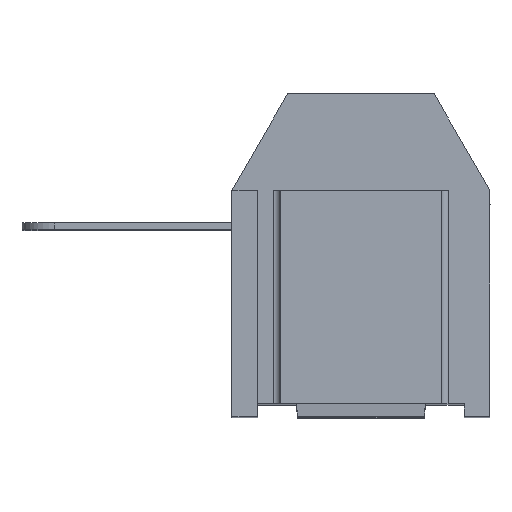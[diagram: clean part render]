
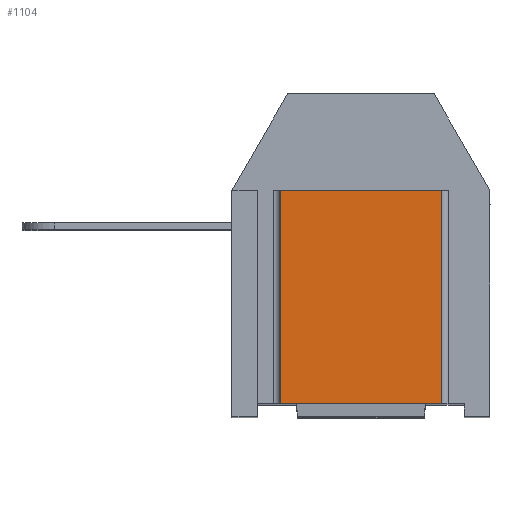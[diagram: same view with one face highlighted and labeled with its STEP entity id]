
A CAD part, top view. The second image highlights one B-rep face of the part: STEP entity #1104.
In plain terms, the highlighted planar face has unit normal (0, 0, 1).
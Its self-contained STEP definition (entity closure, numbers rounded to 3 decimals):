
#1055 = EDGE_LOOP ( 'NONE', ( #1057, #1063, #1064, #1067 ) ) ;
#1057 = ORIENTED_EDGE ( 'NONE', *, *, #1059, .T. ) ;
#1059 = EDGE_CURVE ( 'NONE', #1062, #1088, #11207, .T. ) ;
#1062 = VERTEX_POINT ( 'NONE', #11202 ) ;
#1063 = ORIENTED_EDGE ( 'NONE', *, *, #1085, .F. ) ;
#1064 = ORIENTED_EDGE ( 'NONE', *, *, #1065, .T. ) ;
#1065 = EDGE_CURVE ( 'NONE', #1086, #1066, #11197, .T. ) ;
#1066 = VERTEX_POINT ( 'NONE', #11192 ) ;
#1067 = ORIENTED_EDGE ( 'NONE', *, *, #1069, .T. ) ;
#1069 = EDGE_CURVE ( 'NONE', #1066, #1062, #11189, .T. ) ;
#1085 = EDGE_CURVE ( 'NONE', #1086, #1088, #11277, .T. ) ;
#1086 = VERTEX_POINT ( 'NONE', #11269 ) ;
#1088 = VERTEX_POINT ( 'NONE', #11267 ) ;
#1104 = ADVANCED_FACE ( 'NONE', ( #11355 ), #11351, .F. ) ;
#11183 = DIRECTION ( 'NONE',  ( 0., -1., 0. ) ) ;
#11185 = VECTOR ( 'NONE', #11183, 1000. ) ;
#11187 = CARTESIAN_POINT ( 'NONE',  ( -6.091, -0.048, 0. ) ) ;
#11189 = LINE ( 'NONE', #11187, #11185 ) ;
#11192 = CARTESIAN_POINT ( 'NONE',  ( -6.091, 3.252, 0. ) ) ;
#11193 = DIRECTION ( 'NONE',  ( -1., 0., 0. ) ) ;
#11194 = VECTOR ( 'NONE', #11193, 1000. ) ;
#11196 = CARTESIAN_POINT ( 'NONE',  ( -3.591, 3.252, 0. ) ) ;
#11197 = LINE ( 'NONE', #11196, #11194 ) ;
#11202 = CARTESIAN_POINT ( 'NONE',  ( -6.091, -3.348, 0. ) ) ;
#11203 = DIRECTION ( 'NONE',  ( 1., 0., 0. ) ) ;
#11204 = VECTOR ( 'NONE', #11203, 1000. ) ;
#11206 = CARTESIAN_POINT ( 'NONE',  ( -3.591, -3.348, 0. ) ) ;
#11207 = LINE ( 'NONE', #11206, #11204 ) ;
#11267 = CARTESIAN_POINT ( 'NONE',  ( -1.091, -3.348, 0. ) ) ;
#11269 = CARTESIAN_POINT ( 'NONE',  ( -1.091, 3.252, 0. ) ) ;
#11272 = DIRECTION ( 'NONE',  ( 0., -1., 0. ) ) ;
#11273 = VECTOR ( 'NONE', #11272, 1000. ) ;
#11276 = CARTESIAN_POINT ( 'NONE',  ( -1.091, -0.048, 0. ) ) ;
#11277 = LINE ( 'NONE', #11276, #11273 ) ;
#11346 = DIRECTION ( 'NONE',  ( -1., 0., 0. ) ) ;
#11348 = DIRECTION ( 'NONE',  ( 0., 0., -1. ) ) ;
#11349 = CARTESIAN_POINT ( 'NONE',  ( -1.091, -3.348, 0. ) ) ;
#11350 = AXIS2_PLACEMENT_3D ( 'NONE', #11349, #11348, #11346 ) ;
#11351 = PLANE ( 'NONE',  #11350 ) ;
#11355 = FACE_OUTER_BOUND ( 'NONE', #1055, .T. ) ;
